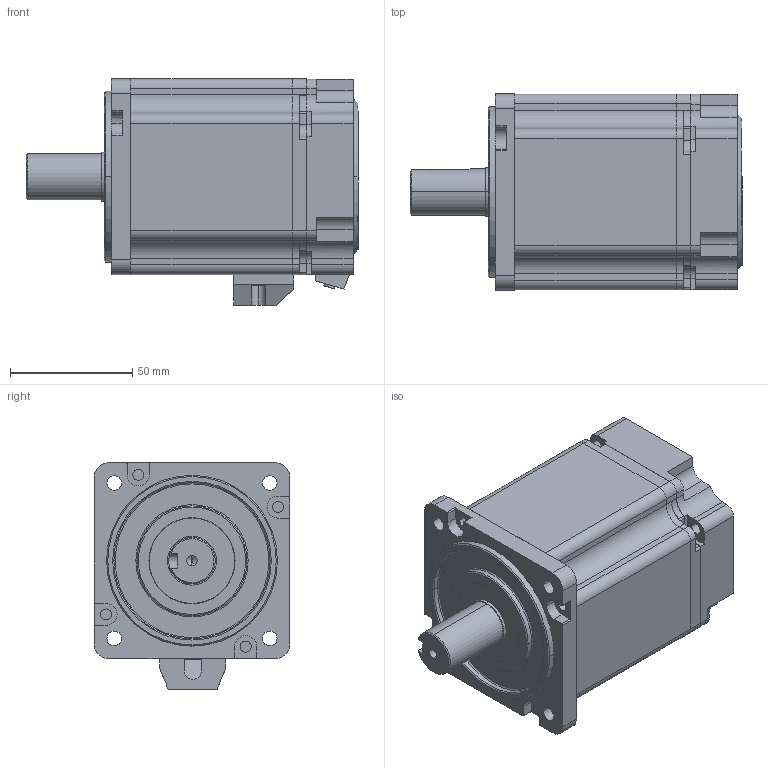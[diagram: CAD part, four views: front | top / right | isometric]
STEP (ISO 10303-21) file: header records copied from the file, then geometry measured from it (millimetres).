
FILE_DESCRIPTION (( 'STEP AP203' ), '1' );
FILE_NAME ('750W.STEP', '2024-04-25T05:52:26', ( '' ), ( '' ), 'SwSTEP 2.0', 'SolidWorks 2018', '' );
FILE_SCHEMA (( 'CONFIG_CONTROL_DESIGN' ));
Length unit declared in the file: millimetre
Products named in the file (8): 雄薯盄揤啣; 750W; 綴裔; ヶ裔; 2.4N.M儂褲 ; 情遴綴欶; 蚐猾; 1.27N.M蛌粣
Assembly tree (7 placements, depth 2):
  750W
    1.27N.M蛌粣
    2.4N.M儂褲 
    雄薯盄揤啣
    綴裔
    ヶ裔
    蚐猾
    情遴綴欶
Bounding box: 136 x 80.2 x 92.7 mm (x, y, z)
Volume: 206182.1 mm3; surface area: 119834.7 mm2
Topology: 7 solids, 7 shells, 818 faces, 2150 edges, 1320 vertices
Faces by surface type: cylinder 366, plane 272, cone 57, sphere 50, torus 49, bspline 24
Entity records: 26548 total; most frequent: CARTESIAN_POINT 5163, DIRECTION 4584, ORIENTED_EDGE 4172, EDGE_CURVE 2086, AXIS2_PLACEMENT_3D 1799, VERTEX_POINT 1320, CIRCLE 995, LINE 986
